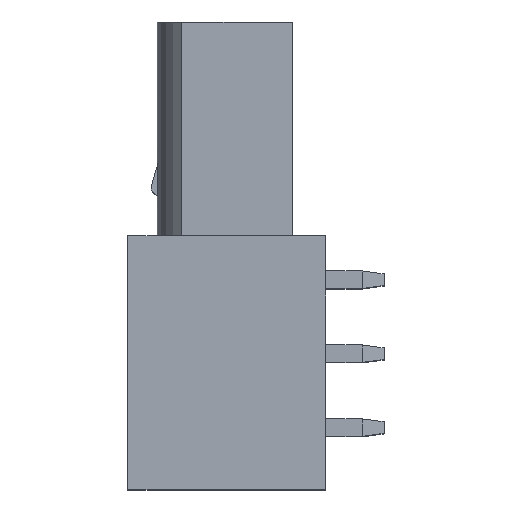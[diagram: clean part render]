
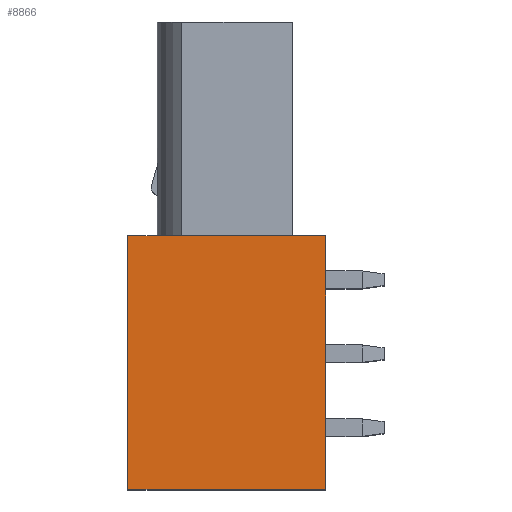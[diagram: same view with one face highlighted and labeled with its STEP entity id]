
A CAD part, top view. The second image highlights one B-rep face of the part: STEP entity #8866.
In plain terms, the highlighted planar face has unit normal (0, 0, 1).
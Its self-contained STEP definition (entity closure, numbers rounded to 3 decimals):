
#205=DIRECTION('',(-1.,0.,0.));
#206=VECTOR('',#205,13.6);
#207=CARTESIAN_POINT('',(13.6,17.4,-8.48));
#208=LINE('',#207,#206);
#1945=DIRECTION('',(0.,-1.,0.));
#1946=VECTOR('',#1945,17.4);
#1947=CARTESIAN_POINT('',(0.,17.4,-8.48));
#1948=LINE('',#1947,#1946);
#1977=DIRECTION('',(1.,0.,0.));
#1978=VECTOR('',#1977,13.6);
#1979=CARTESIAN_POINT('',(0.,0.,-8.48));
#1980=LINE('',#1979,#1978);
#1981=DIRECTION('',(0.,1.,0.));
#1982=VECTOR('',#1981,17.4);
#1983=CARTESIAN_POINT('',(13.6,0.,-8.48));
#1984=LINE('',#1983,#1982);
#5018=CARTESIAN_POINT('',(13.6,17.4,-8.48));
#5020=VERTEX_POINT('',#5018);
#5021=CARTESIAN_POINT('',(0.,17.4,-8.48));
#5022=VERTEX_POINT('',#5021);
#5173=CARTESIAN_POINT('',(13.6,0.,-8.48));
#5174=VERTEX_POINT('',#5173);
#5185=CARTESIAN_POINT('',(0.,0.,-8.48));
#5186=VERTEX_POINT('',#5185);
#8853=CARTESIAN_POINT('',(7.2,0.,-8.48));
#8854=DIRECTION('',(0.,0.,-1.));
#8855=DIRECTION('',(1.,0.,0.));
#8856=AXIS2_PLACEMENT_3D('',#8853,#8854,#8855);
#8857=PLANE('',#8856);
#8859=ORIENTED_EDGE('',*,*,#8858,.F.);
#8860=ORIENTED_EDGE('',*,*,#8835,.F.);
#8861=ORIENTED_EDGE('',*,*,#6380,.F.);
#8863=ORIENTED_EDGE('',*,*,#8862,.F.);
#8864=EDGE_LOOP('',(#8859,#8860,#8861,#8863));
#8865=FACE_OUTER_BOUND('',#8864,.F.);
#8866=ADVANCED_FACE('',(#8865),#8857,.F.);
#6380=EDGE_CURVE('',#5020,#5022,#208,.T.);
#8835=EDGE_CURVE('',#5022,#5186,#1948,.T.);
#8858=EDGE_CURVE('',#5186,#5174,#1980,.T.);
#8862=EDGE_CURVE('',#5174,#5020,#1984,.T.);
